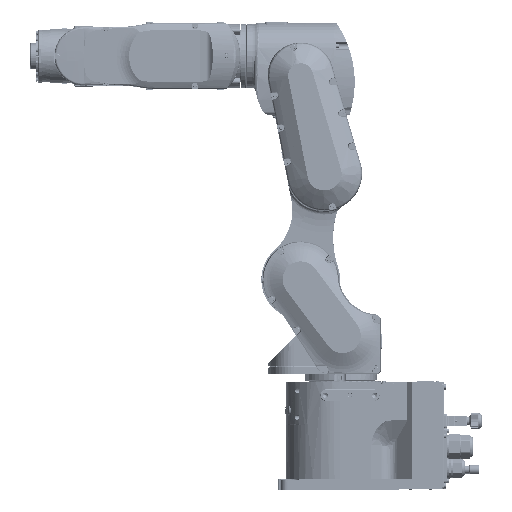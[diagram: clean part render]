
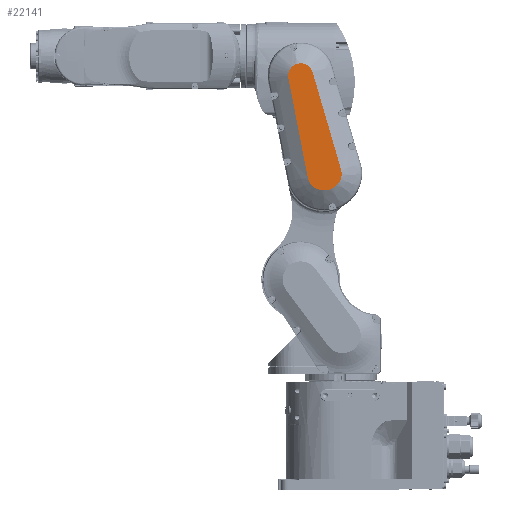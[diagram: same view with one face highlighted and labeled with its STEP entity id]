
A CAD part, top view. The second image highlights one B-rep face of the part: STEP entity #22141.
In plain terms, the highlighted planar face has unit normal (0, 0, 1).
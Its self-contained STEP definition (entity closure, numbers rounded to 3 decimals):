
#2560 = CARTESIAN_POINT ( 'NONE',  ( 24.508, 137.926, 110. ) ) ;
#6051 = EDGE_CURVE ( 'NONE', #53412, #47652, #77880, .T. ) ;
#6126 = EDGE_LOOP ( 'NONE', ( #18741, #112503, #44764, #26300, #117164, #103555, #193315 ) ) ;
#7537 = DIRECTION ( 'NONE',  ( 0.191, -0.982, 0. ) ) ;
#8491 = LINE ( 'NONE', #141037, #121269 ) ;
#10484 = DIRECTION ( 'NONE',  ( -0.982, -0.191, 0. ) ) ;
#10846 = DIRECTION ( 'NONE',  ( -1., 0., 0. ) ) ;
#18741 = ORIENTED_EDGE ( 'NONE', *, *, #60069, .T. ) ;
#19795 = CARTESIAN_POINT ( 'NONE',  ( 61.437, 167.571, 110. ) ) ;
#22141 = ADVANCED_FACE ( 'NONE', ( #72274 ), #186724, .F. ) ;
#25045 = AXIS2_PLACEMENT_3D ( 'NONE', #158412, #43285, #180869 ) ;
#26300 = ORIENTED_EDGE ( 'NONE', *, *, #106761, .T. ) ;
#37502 = CIRCLE ( 'NONE', #25045, 23.991 ) ;
#38085 = CARTESIAN_POINT ( 'NONE',  ( 10.716, 155.267, 110. ) ) ;
#38958 = CARTESIAN_POINT ( 'NONE',  ( 35.69, 163.04, 110. ) ) ;
#39849 = CARTESIAN_POINT ( 'NONE',  ( -18.641, 306.382, 110. ) ) ;
#42286 = VECTOR ( 'NONE', #10484, 1000. ) ;
#43285 = DIRECTION ( 'NONE',  ( 0., 0., 1. ) ) ;
#44764 = ORIENTED_EDGE ( 'NONE', *, *, #149018, .T. ) ;
#44794 = CARTESIAN_POINT ( 'NONE',  ( 38.41, 160.837, 110. ) ) ;
#47652 = VERTEX_POINT ( 'NONE', #78799 ) ;
#53412 = VERTEX_POINT ( 'NONE', #182944 ) ;
#54376 = AXIS2_PLACEMENT_3D ( 'NONE', #158267, #160176, #10846 ) ;
#58280 = AXIS2_PLACEMENT_3D ( 'NONE', #44794, #104729, #58580 ) ;
#58580 = DIRECTION ( 'NONE',  ( 0.777, -0.629, 0. ) ) ;
#60069 = EDGE_CURVE ( 'NONE', #109569, #159966, #189439, .T. ) ;
#71525 = EDGE_CURVE ( 'NONE', #47652, #87084, #73969, .T. ) ;
#72274 = FACE_OUTER_BOUND ( 'NONE', #6126, .T. ) ;
#73969 = CIRCLE ( 'NONE', #58280, 23.991 ) ;
#77066 = CARTESIAN_POINT ( 'NONE',  ( 61.437, 167.571, 110. ) ) ;
#77880 = CIRCLE ( 'NONE', #90300, 27.491 ) ;
#78799 = CARTESIAN_POINT ( 'NONE',  ( 57.055, 145.739, 110. ) ) ;
#81429 = VECTOR ( 'NONE', #94292, 1000. ) ;
#87084 = VERTEX_POINT ( 'NONE', #77066 ) ;
#90300 = AXIS2_PLACEMENT_3D ( 'NONE', #38958, #98808, #161762 ) ;
#94292 = DIRECTION ( 'NONE',  ( -0.281, 0.96, 0. ) ) ;
#98722 = AXIS2_PLACEMENT_3D ( 'NONE', #2560, #137063, #183340 ) ;
#98808 = DIRECTION ( 'NONE',  ( 0., 0., 1. ) ) ;
#103555 = ORIENTED_EDGE ( 'NONE', *, *, #71525, .T. ) ;
#104729 = DIRECTION ( 'NONE',  ( 0., 0., 1. ) ) ;
#106761 = EDGE_CURVE ( 'NONE', #156633, #53412, #37502, .T. ) ;
#109569 = VERTEX_POINT ( 'NONE', #159727 ) ;
#111525 = EDGE_CURVE ( 'NONE', #159966, #179856, #147917, .T. ) ;
#112503 = ORIENTED_EDGE ( 'NONE', *, *, #111525, .T. ) ;
#114004 = CARTESIAN_POINT ( 'NONE',  ( -18.641, 306.382, 110. ) ) ;
#117164 = ORIENTED_EDGE ( 'NONE', *, *, #6051, .T. ) ;
#121269 = VECTOR ( 'NONE', #7537, 1000. ) ;
#135654 = CARTESIAN_POINT ( 'NONE',  ( -18.644, 306.381, 110. ) ) ;
#137063 = DIRECTION ( 'NONE',  ( 0., 0., -1. ) ) ;
#137484 = EDGE_CURVE ( 'NONE', #87084, #109569, #165271, .T. ) ;
#141037 = CARTESIAN_POINT ( 'NONE',  ( -18.644, 306.381, 110. ) ) ;
#147917 = LINE ( 'NONE', #39849, #42286 ) ;
#149018 = EDGE_CURVE ( 'NONE', #179856, #156633, #8491, .T. ) ;
#156633 = VERTEX_POINT ( 'NONE', #38085 ) ;
#158267 = CARTESIAN_POINT ( 'NONE',  ( 0.003, 309.993, 110. ) ) ;
#158412 = CARTESIAN_POINT ( 'NONE',  ( 34.266, 159.843, 110. ) ) ;
#159727 = CARTESIAN_POINT ( 'NONE',  ( 18.231, 315.323, 110. ) ) ;
#159966 = VERTEX_POINT ( 'NONE', #114004 ) ;
#160176 = DIRECTION ( 'NONE',  ( 0., 0., 1. ) ) ;
#161762 = DIRECTION ( 'NONE',  ( -0.407, -0.914, 0. ) ) ;
#165271 = LINE ( 'NONE', #19795, #81429 ) ;
#179856 = VERTEX_POINT ( 'NONE', #135654 ) ;
#180869 = DIRECTION ( 'NONE',  ( -0.982, -0.191, 0. ) ) ;
#182944 = CARTESIAN_POINT ( 'NONE',  ( 24.508, 137.926, 110. ) ) ;
#183340 = DIRECTION ( 'NONE',  ( 0., -1., 0. ) ) ;
#186724 = PLANE ( 'NONE',  #98722 ) ;
#189439 = CIRCLE ( 'NONE', #54376, 18.991 ) ;
#193315 = ORIENTED_EDGE ( 'NONE', *, *, #137484, .T. ) ;
